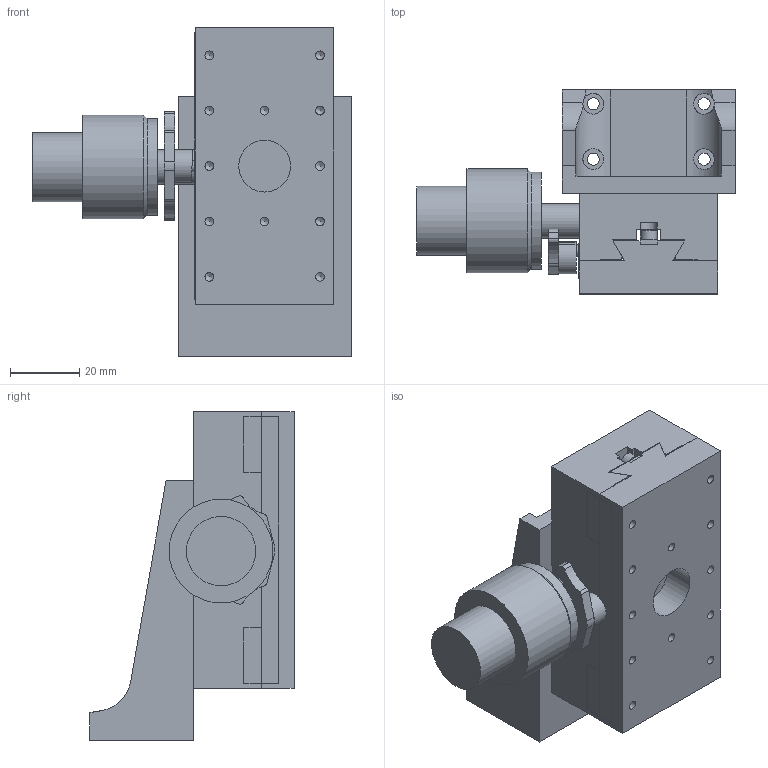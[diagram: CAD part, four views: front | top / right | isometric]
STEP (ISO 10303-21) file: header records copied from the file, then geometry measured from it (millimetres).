
FILE_DESCRIPTION( ( 'STEP AP214' ), '1' );
FILE_NAME( 'C:/Project/B05-13BR.stp', '2007-05-08T10:30:55', ( ' ' ), ( ' ' ), 'XStep 1.0', ' ', ' ' );
FILE_SCHEMA( ( 'automotive_design' ) );
Length unit declared in the file: millimetre
Products named in the file (4): 1; 2; 3; 4
Bounding box: 92 x 59 x 95 mm (x, y, z)
Volume: 139486.1 mm3; surface area: 46842.2 mm2
Topology: 4 solids, 4 shells, 184 faces, 501 edges, 333 vertices
Faces by surface type: plane 111, cylinder 60, cone 13
Full cylindrical faces by diameter (mm): 2.5 x12, 3.242 x1, 3.5 x8, 4.5 x2, 4.7 x2, 6 x8, 7.3 x1, 10 x1, 15 x1, 20 x1, 28 x1, 30 x1
Entity records: 7063 total; most frequent: CARTESIAN_POINT 1174, DIRECTION 906, ORIENTED_EDGE 818, EDGE_CURVE 409, AXIS2_PLACEMENT_3D 317, VERTEX_POINT 305, LINE 272, VECTOR 272
